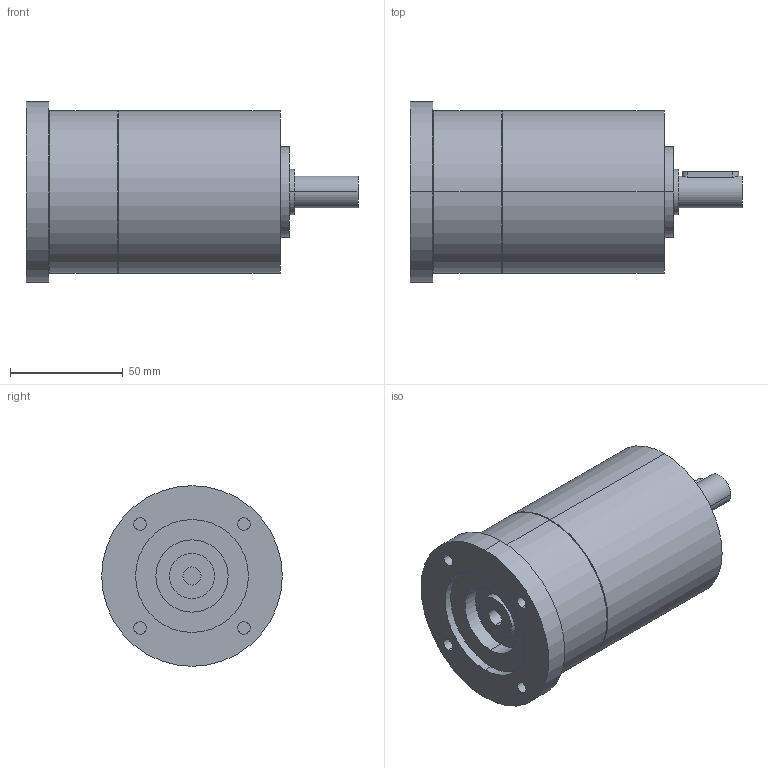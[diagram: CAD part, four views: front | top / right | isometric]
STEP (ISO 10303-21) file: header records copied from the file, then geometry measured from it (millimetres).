
FILE_DESCRIPTION(('CoCreate Modeling STEP Export'),'2;1');
FILE_NAME('GPT75_ig-9-12-16-20-25-28-35-40-50-70-100_14_B14T_8_P13.stp','2014-08-27T13:23:58',(''),(''),'CoCreate Modeling STEP processor for AP214 (Solid Model)','CoCreate Modeling 16.00C 25-Feb-2009 (C) Parametric Technology GmbH','');
FILE_SCHEMA(('AUTOMOTIVE_DESIGN { 1 0 10303 214 1 1 1 1 }'));
Length unit declared in the file: millimetre
Products named in the file (2): GPT75_ig-9-12-16-20-25-28-35-40-50-70-100_14_B14T_8_P13
Assembly tree (1 placements, depth 2):
  GPT75_ig-9-12-16-20-25-28-35-40-50-70-100_14_B14T_8_P13
    GPT75_ig-9-12-16-20-25-28-35-40-50-70-100_14_B14T_8_P13
Bounding box: 147 x 80 x 80 mm (x, y, z)
Volume: 463337.1 mm3; surface area: 41824.9 mm2
Topology: 1 solids, 1 shells, 67 faces, 150 edges, 103 vertices
Faces by surface type: cylinder 40, plane 23, cone 4
Entity records: 1958 total; most frequent: CARTESIAN_POINT 627, ORIENTED_EDGE 300, DIRECTION 222, EDGE_CURVE 150, VERTEX_POINT 103, AXIS2_PLACEMENT_3D 86, EDGE_LOOP 85, FACE_OUTER_BOUND 67
